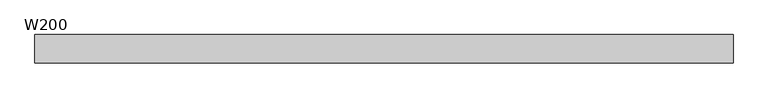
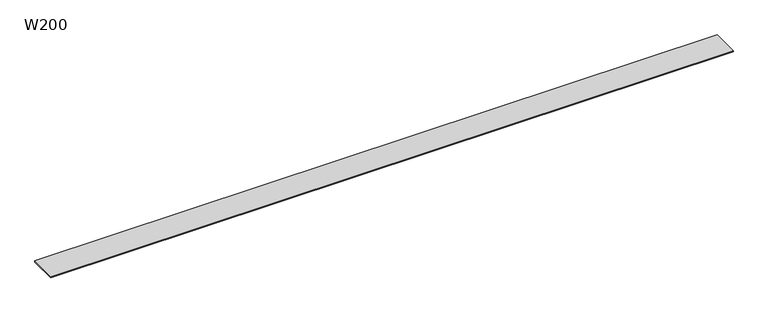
"""IFC4 building model written with IfcOpenShell, lengths in millimetres: geographic element geometry, 営_(外構)グレーチング : W200."""

from ifc_helpers import new_model, si_unit, origin, origin_with_axes, place, context, project, spatial, polyline, outline, extrude, source, transform, mapped, element, save


def w200_ae710f6c(model_context):
    return source(origin(), model_context, "Body", "SweptSolid", [
        extrude(outline(polyline([(5200.0, 105.0), (5200.0, -105.0), (0.0, -105.0), (0.0, 105.0), (5200.0, 105.0)])), origin_with_axes(), (0.0, 0.0, 1.0), 10.0),
    ])


if __name__ == "__main__":
    model = new_model("IFC4")
    model_context = context("Model", 3, world=origin())
    ifc_project = project(units=[si_unit("LENGTHUNIT", "METRE", prefix="MILLI")], contexts=[model_context])
    site = spatial("IfcSite", under=ifc_project)
    building = spatial("IfcBuilding", under=site)
    placement = place(None, origin())
    w200_shape = w200_ae710f6c(model_context)
    element("IfcGeographicElement", 1, ObjectType="営_(外構)グレーチング : W200", at=placement, inside=building, context=model_context, shape_type="MappedRepresentation", body=[
        mapped(w200_shape, transform((0.0, 0.0, 0.0), x_axis=(1.0, 0.0, 0.0), y_axis=(0.0, 1.0, 0.0), z_axis=(0.0, 0.0, 1.0))),
    ])
    save(model, "model.ifc")
